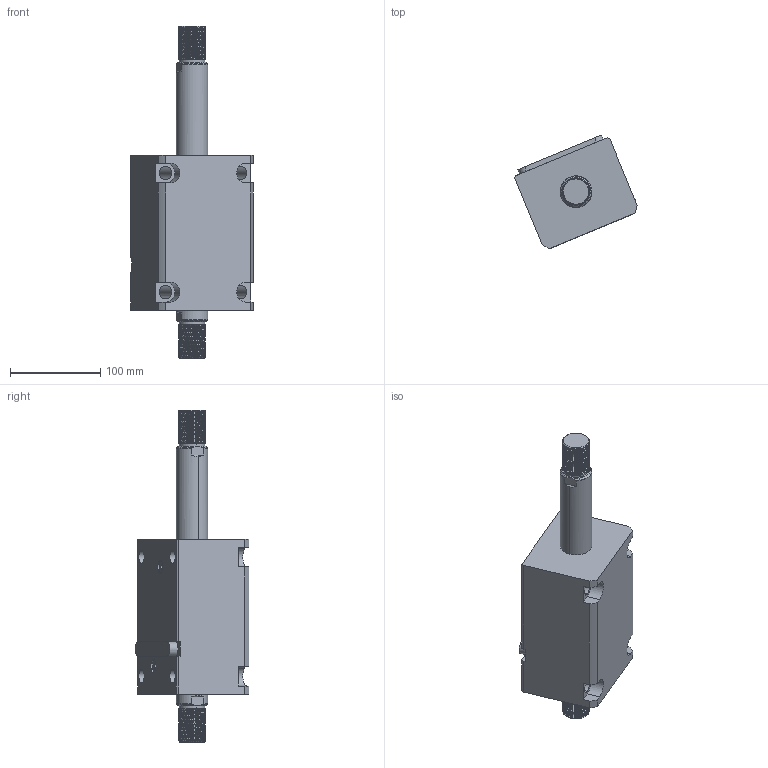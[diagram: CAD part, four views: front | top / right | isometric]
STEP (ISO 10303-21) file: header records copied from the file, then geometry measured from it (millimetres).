
FILE_DESCRIPTION (( 'STEP AP214' ), '1' );
FILE_NAME ('chtb-lwm63x90w_asm.STEP', '2018-05-22T02:01:17', ( 'Windows' ), ( 'Microsoft' ), 'SwSTEP 2.0', 'SolidWorks 2015', '' );
FILE_SCHEMA (( 'AUTOMOTIVE_DESIGN' ));
Length unit declared in the file: millimetre
Products named in the file (5): chtb-lwm63x90w_asm; CHTB-LA63PJ; CHTB-SW63X90WHSG; CHTB-LWM63X90NBT; CHTB-63QG
Assembly tree (4 placements, depth 2):
  chtb-lwm63x90w_asm
    CHTB-63QG
    CHTB-LWM63X90NBT
    CHTB-SW63X90WHSG
    CHTB-LA63PJ
Bounding box: 135.77 x 126.06 x 368 mm (x, y, z)
Volume: 1637089.2 mm3; surface area: 212821.4 mm2
Topology: 4 solids, 4 shells, 298 faces, 869 edges, 587 vertices
Faces by surface type: cylinder 203, plane 55, bspline 16, cone 12, torus 12
Entity records: 27660 total; most frequent: CARTESIAN_POINT 20506, ORIENTED_EDGE 1730, DIRECTION 1186, EDGE_CURVE 865, VERTEX_POINT 587, AXIS2_PLACEMENT_3D 440, EDGE_LOOP 326, VECTOR 306
